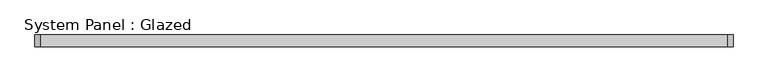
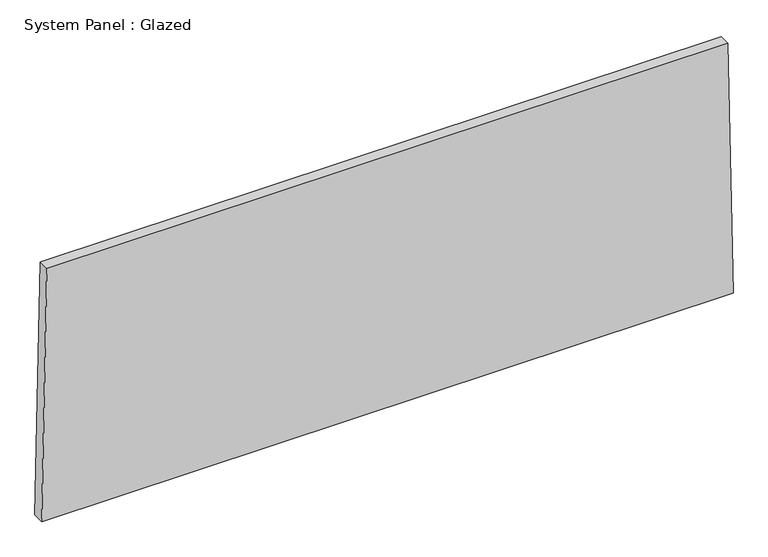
"""IFC4 building model written with IfcOpenShell, lengths in millimetres: plate geometry, System Panel : Glazed."""

from ifc_helpers import new_model, si_unit, frame, origin, place, context, project, spatial, polyline, outline, extrude, source, transform, mapped, element, save


def system_panel_glazed_82840720(model_context):
    return source(origin(), model_context, "Body", "SweptSolid", [
        extrude(outline(polyline([(0.0, -759.2644702), (0.0, 759.2644702), (584.0841669, 747.8765053), (584.0841669, -747.8765053), (0.0, -759.2644702)])), frame((0.0, 19.05, 0.0), z_axis=(0.0, 1.0, 0.0), x_axis=(0.0, 0.0, 1.0)), (0.0, 0.0, 1.0), 25.4),
    ])


if __name__ == "__main__":
    model = new_model("IFC4")
    model_context = context("Model", 3, world=origin())
    ifc_project = project(units=[si_unit("LENGTHUNIT", "METRE", prefix="MILLI")], contexts=[model_context])
    site = spatial("IfcSite", under=ifc_project)
    building = spatial("IfcBuilding", under=site)
    placement = place(None, origin())
    system_panel_glazed_shape = system_panel_glazed_82840720(model_context)
    element("IfcPlate", 1, ObjectType="System Panel : Glazed", at=placement, inside=building, context=model_context, shape_type="MappedRepresentation", body=[
        mapped(system_panel_glazed_shape, transform((0.0, 0.0, 0.0), x_axis=(1.0, 0.0, 0.0), y_axis=(0.0, 1.0, 0.0), z_axis=(0.0, 0.0, 1.0))),
    ])
    save(model, "model.ifc")
